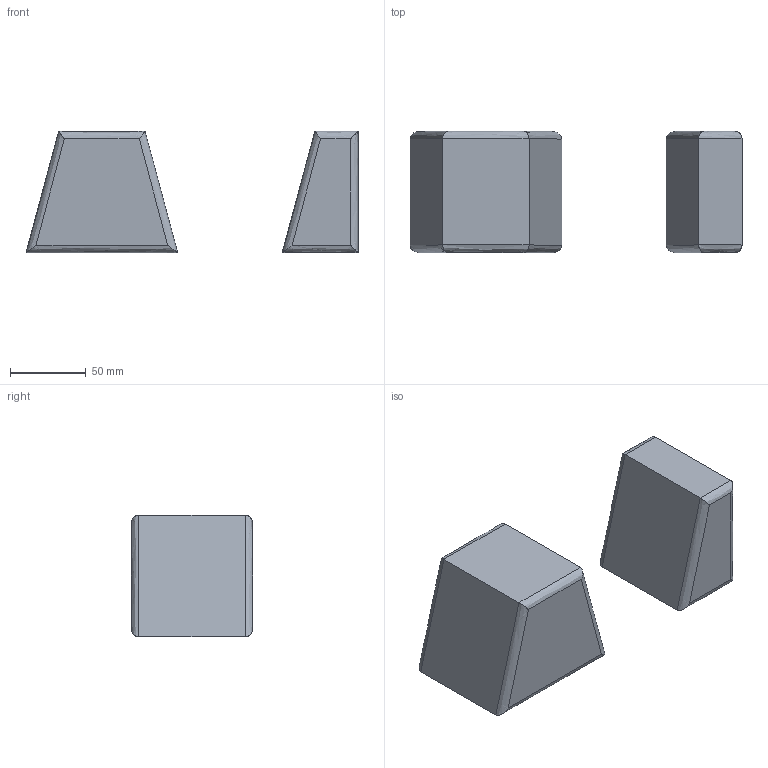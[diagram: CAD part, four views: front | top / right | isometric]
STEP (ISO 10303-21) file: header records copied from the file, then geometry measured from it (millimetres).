
FILE_DESCRIPTION(/* description */ (''),/* implementation_level */ '2;1');
FILE_NAME(/* name */ 'kinoshita_baobabland_k210',/* time_stamp */ '2026-07-24T20:45:22+09:00',/* author */ (''),/* organization */ (''),/* preprocessor_version */ 'ST-DEVELOPER v16.5',/* originating_system */ '',/* authorisation */ '');
FILE_SCHEMA (('AUTOMOTIVE_DESIGN'));
Length unit declared in the file: millimetre
Products named in the file (1): Document
Bounding box: 218.94 x 80 x 80 mm (x, y, z)
Volume: 747744.9 mm3; surface area: 61482.3 mm2
Topology: 2 solids, 2 shells, 28 faces, 56 edges, 32 vertices
Faces by surface type: bspline 16, plane 12
Entity records: 1515 total; most frequent: CARTESIAN_POINT 1094, ORIENTED_EDGE 112, EDGE_CURVE 56, B_SPLINE_CURVE_WITH_KNOTS 56, VERTEX_POINT 32, ADVANCED_FACE 28, FACE_OUTER_BOUND 28, EDGE_LOOP 28
